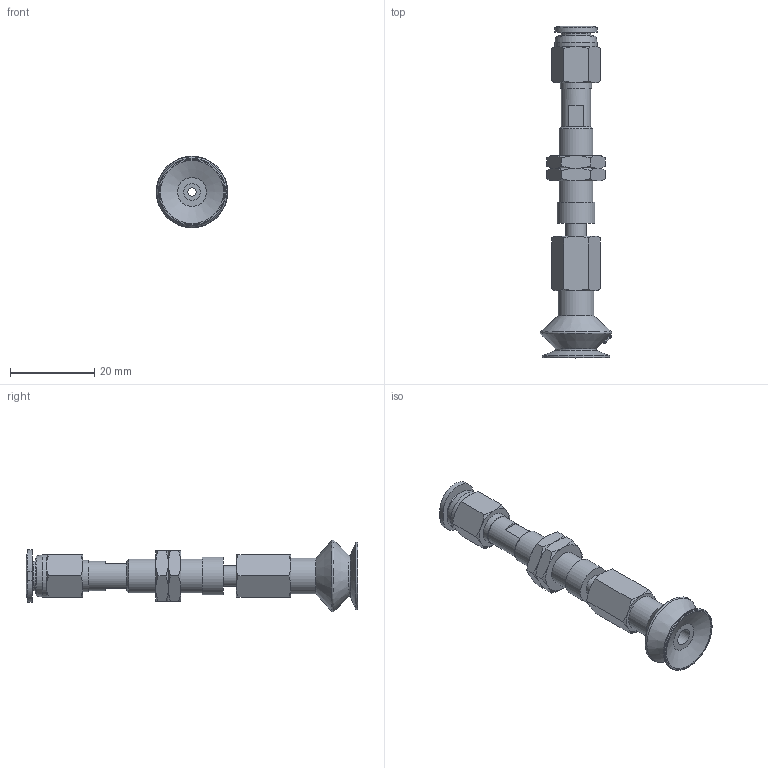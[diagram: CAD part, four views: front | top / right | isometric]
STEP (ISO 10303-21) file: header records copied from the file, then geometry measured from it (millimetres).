
FILE_DESCRIPTION(('STEP AP203'),'1');
FILE_NAME('-O.stp','2025-08-27T01:03:48',(' '),(' '),'Spatial InterOp 3D',' ',' ');
FILE_SCHEMA(('CONFIG_CONTROL_DESIGN'));
Length unit declared in the file: millimetre
Products named in the file (9): BNABPBTS-15A-3-※-O; ADAPTER; NAPATS-10A-3--M; Nut-15A-S-PB; NAPBTS-15A-3--F; BPBG-15A-※; __27; BPBG-15A; PC-C_06-M5
Assembly tree (9 placements, depth 3):
  BNABPBTS-15A-3-※-O
    ADAPTER
    NAPATS-10A-3--M
    Nut-15A-S-PB  x2
    NAPBTS-15A-3--F
    BPBG-15A-※
      __27
      BPBG-15A
    PC-C_06-M5
Bounding box: 17 x 78.98 x 17 mm (x, y, z)
Volume: 4476.6 mm3; surface area: 5793.1 mm2
Topology: 7 solids, 10 shells, 179 faces, 374 edges, 228 vertices
Faces by surface type: cone 66, plane 59, cylinder 26, torus 13, bspline 12, revolution 3
Full cylindrical faces by diameter (mm): 2 x2, 4 x5, 4.134 x1, 5 x3, 6 x2, 7 x2, 7.188 x2, 7.4 x1, 8 x1, 8.2 x1, 8.5 x1, 9 x1, 10 x1, 16 x1
Entity records: 5773 total; most frequent: CARTESIAN_POINT 2432, DIRECTION 590, ORIENTED_EDGE 518, AXIS2_PLACEMENT_3D 270, EDGE_CURVE 261, EDGE_LOOP 233, VERTEX_POINT 186, FACE_OUTER_BOUND 132
